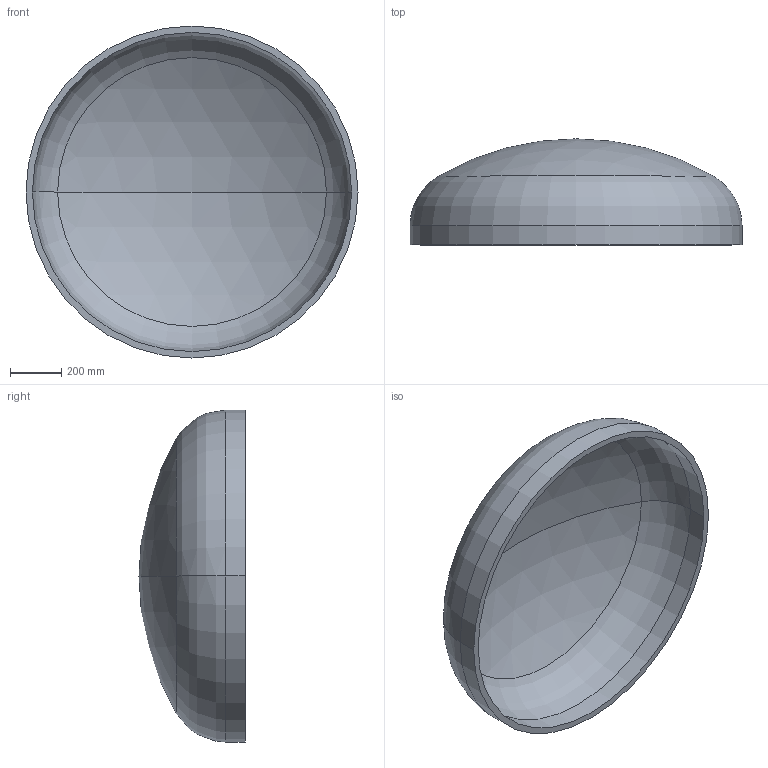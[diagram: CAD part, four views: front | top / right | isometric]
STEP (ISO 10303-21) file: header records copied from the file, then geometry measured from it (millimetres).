
FILE_DESCRIPTION (( 'STEP AP203' ), '1' );
FILE_NAME ('DIN 28013 Korbbogenform_-_Boden DIN 28013 - 1300 x 75 - I - s=25.step', '2016-07-01T09:46:49', ( '' ), ( '' ), 'SwSTEP 2.0', 'SolidWorks 2013', '' );
FILE_SCHEMA (( 'CONFIG_CONTROL_DESIGN' ));
Length unit declared in the file: millimetre
Products named in the file (1): DIN 28013 Korbbogenform_-_Boden DIN 28013 - 1300 x 75 - I - s=25
Bounding box: 1300 x 415.45 x 1300 mm (x, y, z)
Volume: 52310029.1 mm3; surface area: 4286248.2 mm2
Topology: 1 solids, 1 shells, 13 faces, 24 edges, 14 vertices
Faces by surface type: torus 4, cylinder 4, sphere 4, plane 1
Entity records: 407 total; most frequent: DIRECTION 72, CARTESIAN_POINT 52, ORIENTED_EDGE 48, AXIS2_PLACEMENT_3D 34, EDGE_CURVE 24, CIRCLE 20, VERTEX_POINT 14, EDGE_LOOP 14
